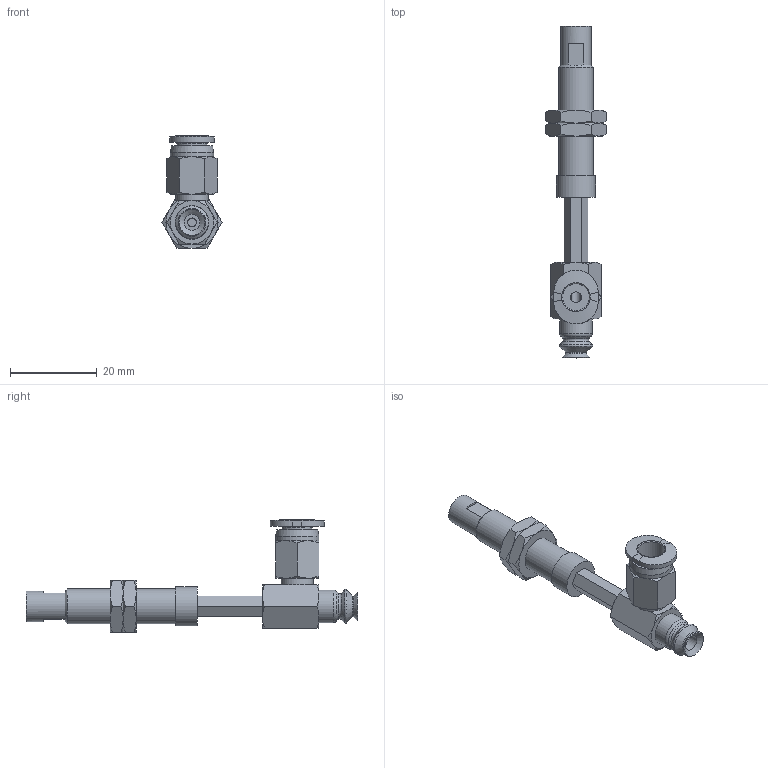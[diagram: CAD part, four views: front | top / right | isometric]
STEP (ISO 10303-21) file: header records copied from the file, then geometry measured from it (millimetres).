
FILE_DESCRIPTION(('STEP AP203'),'1');
FILE_NAME('-O.stp','2025-04-24T05:34:04',(' '),(' '),'Spatial InterOp 3D',' ',' ');
FILE_SCHEMA(('CONFIG_CONTROL_DESIGN'));
Length unit declared in the file: millimetre
Products named in the file (7): BNABPJYH-6-15-※-O; CONNECTOR_H-6-15; NAPJH-6-15-NUT; NAPJTH-6-15-FBODY; NAPJTH-6-15-MBODY; BPJG-6-※; PC-C_06-M5
Assembly tree (7 placements, depth 2):
  BNABPJYH-6-15-※-O
    CONNECTOR_H-6-15
    NAPJH-6-15-NUT  x2
    NAPJTH-6-15-FBODY
    NAPJTH-6-15-MBODY
    BPJG-6-※
    PC-C_06-M5
Bounding box: 13.86 x 76.5 x 25.98 mm (x, y, z)
Volume: 3838.3 mm3; surface area: 5865.9 mm2
Topology: 6 solids, 9 shells, 192 faces, 412 edges, 250 vertices
Faces by surface type: plane 78, cone 70, cylinder 24, torus 13, bspline 4, revolution 3
Full cylindrical faces by diameter (mm): 2 x1, 3.64 x1, 4 x4, 4.134 x2, 5 x2, 6 x2, 7 x2, 7.188 x2, 7.4 x1, 7.5 x1, 8 x1, 8.2 x1, 9 x1, 10 x1
Entity records: 4996 total; most frequent: CARTESIAN_POINT 1380, DIRECTION 673, ORIENTED_EDGE 590, EDGE_CURVE 297, AXIS2_PLACEMENT_3D 288, EDGE_LOOP 248, VERTEX_POINT 209, FACE_OUTER_BOUND 143
